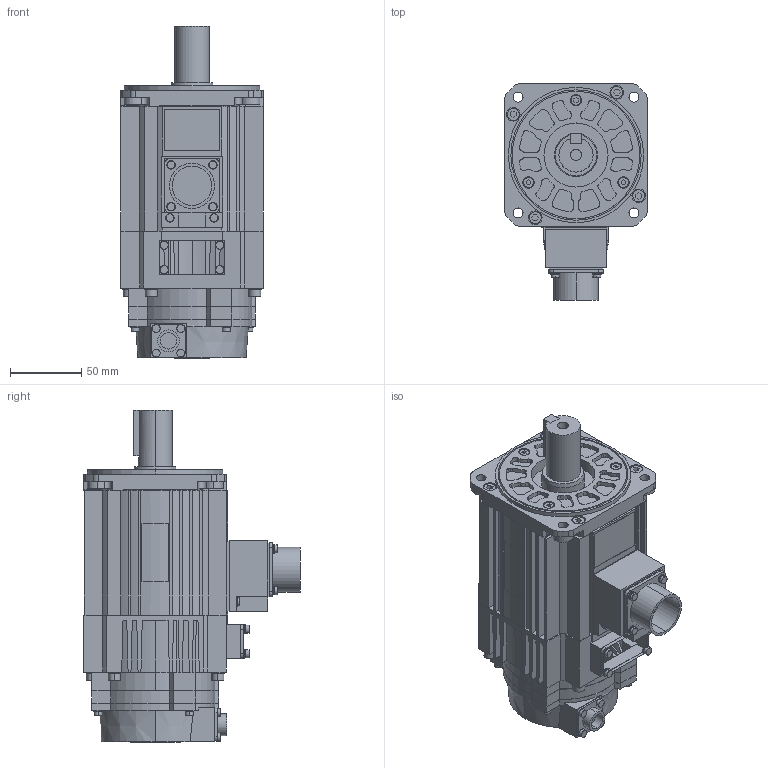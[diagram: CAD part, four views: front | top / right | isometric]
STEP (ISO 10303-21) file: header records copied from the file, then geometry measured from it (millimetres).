
FILE_DESCRIPTION (( 'STEP AP203' ), '1' );
FILE_NAME ('sgmsv_10a_a6c.STEP', '2011-03-20T11:45:47', ( '匠エンジニアリング山之内' ), ( 'TAKUMI-Engniaring' ), 'SwSTEP 2.0', 'SolidWorks 2006303', '' );
FILE_SCHEMA (( 'CONFIG_CONTROL_DESIGN' ));
Length unit declared in the file: millimetre
Products named in the file (3): sgmsv_10a_a6c; sgmsv_10a_a6c_base; sgmsv_10a_a6c_key
Assembly tree (2 placements, depth 2):
  sgmsv_10a_a6c
    sgmsv_10a_a6c_key
    sgmsv_10a_a6c_base
Bounding box: 100 x 151.75 x 233.1 mm (x, y, z)
Volume: 1567627.9 mm3; surface area: 149711.2 mm2
Topology: 2 solids, 2 shells, 996 faces, 2555 edges, 1670 vertices
Faces by surface type: plane 578, cylinder 395, cone 23
Entity records: 30705 total; most frequent: DIRECTION 5423, CARTESIAN_POINT 5358, ORIENTED_EDGE 5110, EDGE_CURVE 2555, AXIS2_PLACEMENT_3D 1900, VERTEX_POINT 1670, LINE 1623, VECTOR 1623
